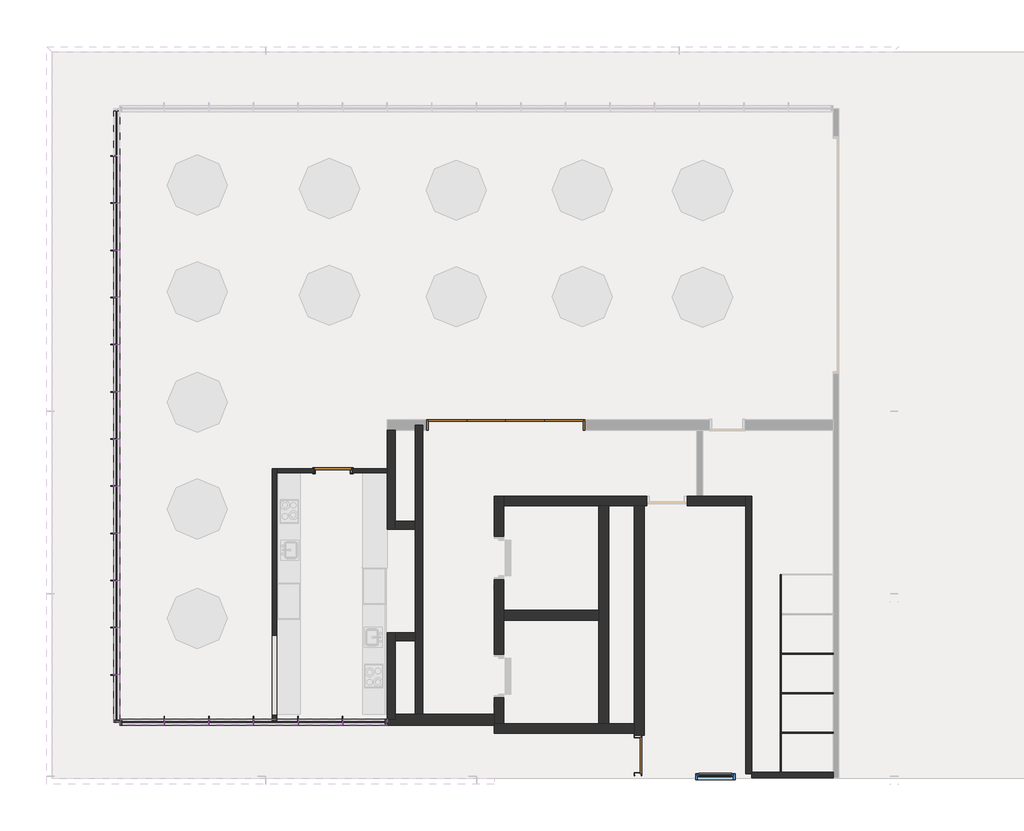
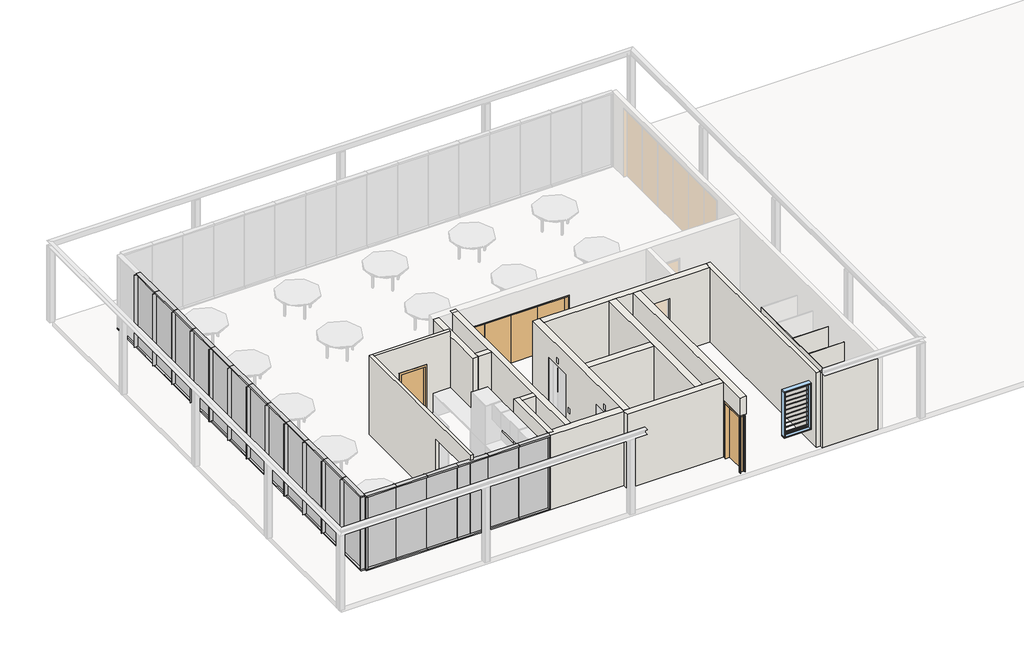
# One storey, part 1 of 4: 57 members, 20 walls, 18 plates, 3 doors, 1 window.
"""IFC4 building model written with IfcOpenShell, lengths in millimetres."""

from ifc_helpers import new_model, si_unit, frame, origin, place, context, project, spatial, polyline, outline, extrude, faceted_brep, transform, mapped, element, save
from components import bi_fold_dor_4_panel_4000_20490200, swing_metal_frame_single_dor_f6efc24d, swing_metal_frame_single_dor_b69e6ea5, rectangular_mullion_50_x_150mm_32aaa733, rectangular_mullion_50_x_150mm_9be94989, rectangular_mullion_50_x_150mm_d2985cef, rectangular_mullion_glass_fin_37cd247f, system_panel_glazed_12mm_face_11843d3f, system_panel_glazed_12mm_face_f78356ff, system_panel_glazed_12mm_face_7741d691, system_panel_glazed_12mm_face_335c03bf, window_louvre_window_louvre_92f3ddc7

model = new_model("IFC4")

# Units and contexts
model_context = context("Model", 3, world=origin())
ifc_project = project(units=[si_unit("LENGTHUNIT", "METRE", prefix="MILLI")], contexts=[model_context])

# Site, building, storey
site = spatial("IfcSite", under=ifc_project)
building = spatial("IfcBuilding", under=site)
storey = spatial("IfcBuildingStorey", under=building, Name="4階", Elevation=39200.0)

# Doors
placement = place(None, origin())
bi_fold_dor_4_panel_4000_shape = bi_fold_dor_4_panel_4000_20490200(model_context)
element("IfcDoor", 1, ObjectType="Bi Fold_DOR : 4 Panel - 4000", at=placement, inside=storey, context=model_context, shape_type="MappedRepresentation", body=[
    mapped(bi_fold_dor_4_panel_4000_shape, transform((13994.6062665, 9131.2680774, 39200.0), x_axis=(1.0, 0.0, 0.0), y_axis=(0.0, 1.0, 0.0), z_axis=(0.0, 0.0, 1.0))),
])
swing_metal_frame_single_dor_shape = swing_metal_frame_single_dor_f6efc24d(model_context)
element("IfcDoor", 2, ObjectType="Swing_Metal Frame_Single_DOR : 2140h x 920 (2210x1010 BLK)", at=placement, inside=storey, context=model_context, shape_type="MappedRepresentation", body=[
    mapped(swing_metal_frame_single_dor_shape, transform((17369.6062665, 770.0, 39200.0), x_axis=(0.0, 1.0, 0.0), y_axis=(-1.0, 0.0, 0.0), z_axis=(0.0, 0.0, 1.0))),
])
swing_metal_frame_single_dor_2_shape = swing_metal_frame_single_dor_b69e6ea5(model_context)
element("IfcDoor", 3, ObjectType="Swing_Metal Frame_Single_DOR : 2040h x 920 (2110x1020 STUD)", at=placement, inside=storey, context=model_context, shape_type="MappedRepresentation", body=[
    mapped(swing_metal_frame_single_dor_2_shape, transform((9616.1549948, 7974.0898177, 39200.0), x_axis=(-1.0, 0.0, 0.0), y_axis=(0.0, -1.0, 0.0), z_axis=(0.0, 0.0, 1.0))),
])

# Members
rectangular_mullion_50_x_150mm_shape = rectangular_mullion_50_x_150mm_32aaa733(model_context)
element("IfcMember", 4, ObjectType="Rectangular Mullion : 50 x 150mm", at=placement, inside=storey, context=model_context, shape_type="MappedRepresentation", body=[
    mapped(rectangular_mullion_50_x_150mm_shape, transform((10994.6062665, 1614.0898177, 39250.0), x_axis=(1.0, 0.0, 0.0), y_axis=(0.0, -1.0, 0.0), z_axis=(0.0, 0.0, -1.0))),
])
element("IfcMember", 5, ObjectType="Rectangular Mullion : 50 x 150mm", at=placement, inside=storey, context=model_context, shape_type="MappedRepresentation", body=[
    mapped(rectangular_mullion_50_x_150mm_shape, transform((4219.6057353, 1614.0898177, 42050.0), x_axis=(-1.0, 0.0, 0.0), y_axis=(0.0, -1.0, 0.0), z_axis=(0.0, 0.0, 1.0))),
])
element("IfcMember", 6, ObjectType="Rectangular Mullion : 50 x 150mm", at=placement, inside=storey, context=model_context, shape_type="MappedRepresentation", body=[
    mapped(rectangular_mullion_50_x_150mm_shape, transform((4144.6057353, 1614.0898177, 42050.0), x_axis=(0.0, -1.0, 0.0), y_axis=(1.0, 0.0, 0.0), z_axis=(0.0, 0.0, 1.0))),
])
rectangular_mullion_50_x_150mm_2_shape = rectangular_mullion_50_x_150mm_9be94989(model_context)
element("IfcMember", 7, ObjectType="Rectangular Mullion : 50 x 150mm", at=placement, inside=storey, context=model_context, shape_type="MappedRepresentation", body=[
    mapped(rectangular_mullion_50_x_150mm_2_shape, transform((4144.6057353, 1614.0898177, 39200.0), x_axis=(0.0, 0.0, -1.0), y_axis=(1.0, 0.0, 0.0), z_axis=(0.0, -1.0, 0.0))),
])
element("IfcMember", 8, ObjectType="Rectangular Mullion : 50 x 150mm", at=placement, inside=storey, context=model_context, shape_type="MappedRepresentation", body=[
    mapped(rectangular_mullion_50_x_150mm_2_shape, transform((4144.6057353, 2808.0059855, 42100.0), x_axis=(0.0, 0.0, 1.0), y_axis=(1.0, 0.0, 0.0), z_axis=(0.0, 1.0, 0.0))),
])
element("IfcMember", 9, ObjectType="Rectangular Mullion : 50 x 150mm", at=placement, inside=storey, context=model_context, shape_type="MappedRepresentation", body=[
    mapped(rectangular_mullion_50_x_150mm_2_shape, transform((4144.6057353, 4001.9221534, 42100.0), x_axis=(0.0, 0.0, 1.0), y_axis=(1.0, 0.0, 0.0), z_axis=(0.0, 1.0, 0.0))),
])
element("IfcMember", 10, ObjectType="Rectangular Mullion : 50 x 150mm", at=placement, inside=storey, context=model_context, shape_type="MappedRepresentation", body=[
    mapped(rectangular_mullion_50_x_150mm_2_shape, transform((4144.6057353, 5195.8383213, 42100.0), x_axis=(0.0, 0.0, 1.0), y_axis=(1.0, 0.0, 0.0), z_axis=(0.0, 1.0, 0.0))),
])
element("IfcMember", 11, ObjectType="Rectangular Mullion : 50 x 150mm", at=placement, inside=storey, context=model_context, shape_type="MappedRepresentation", body=[
    mapped(rectangular_mullion_50_x_150mm_2_shape, transform((4144.6057353, 6389.7544891, 42100.0), x_axis=(0.0, 0.0, 1.0), y_axis=(1.0, 0.0, 0.0), z_axis=(0.0, 1.0, 0.0))),
])
element("IfcMember", 12, ObjectType="Rectangular Mullion : 50 x 150mm", at=placement, inside=storey, context=model_context, shape_type="MappedRepresentation", body=[
    mapped(rectangular_mullion_50_x_150mm_2_shape, transform((4144.6057353, 7583.670657, 42100.0), x_axis=(0.0, 0.0, 1.0), y_axis=(1.0, 0.0, 0.0), z_axis=(0.0, 1.0, 0.0))),
])
element("IfcMember", 13, ObjectType="Rectangular Mullion : 50 x 150mm", at=placement, inside=storey, context=model_context, shape_type="MappedRepresentation", body=[
    mapped(rectangular_mullion_50_x_150mm_2_shape, transform((4144.6057353, 8777.5868249, 42100.0), x_axis=(0.0, 0.0, 1.0), y_axis=(1.0, 0.0, 0.0), z_axis=(0.0, 1.0, 0.0))),
])
element("IfcMember", 14, ObjectType="Rectangular Mullion : 50 x 150mm", at=placement, inside=storey, context=model_context, shape_type="MappedRepresentation", body=[
    mapped(rectangular_mullion_50_x_150mm_2_shape, transform((4144.6057353, 9971.5029928, 42100.0), x_axis=(0.0, 0.0, 1.0), y_axis=(1.0, 0.0, 0.0), z_axis=(0.0, 1.0, 0.0))),
])
element("IfcMember", 15, ObjectType="Rectangular Mullion : 50 x 150mm", at=placement, inside=storey, context=model_context, shape_type="MappedRepresentation", body=[
    mapped(rectangular_mullion_50_x_150mm_2_shape, transform((4144.6057353, 11165.4191606, 42100.0), x_axis=(0.0, 0.0, 1.0), y_axis=(1.0, 0.0, 0.0), z_axis=(0.0, 1.0, 0.0))),
])
element("IfcMember", 16, ObjectType="Rectangular Mullion : 50 x 150mm", at=placement, inside=storey, context=model_context, shape_type="MappedRepresentation", body=[
    mapped(rectangular_mullion_50_x_150mm_2_shape, transform((4144.6057353, 12359.3353285, 42100.0), x_axis=(0.0, 0.0, 1.0), y_axis=(1.0, 0.0, 0.0), z_axis=(0.0, 1.0, 0.0))),
])
element("IfcMember", 17, ObjectType="Rectangular Mullion : 50 x 150mm", at=placement, inside=storey, context=model_context, shape_type="MappedRepresentation", body=[
    mapped(rectangular_mullion_50_x_150mm_2_shape, transform((4144.6057353, 13553.2514964, 42100.0), x_axis=(0.0, 0.0, 1.0), y_axis=(1.0, 0.0, 0.0), z_axis=(0.0, 1.0, 0.0))),
])
element("IfcMember", 18, ObjectType="Rectangular Mullion : 50 x 150mm", at=placement, inside=storey, context=model_context, shape_type="MappedRepresentation", body=[
    mapped(rectangular_mullion_50_x_150mm_2_shape, transform((4144.6057353, 14747.1676643, 42100.0), x_axis=(0.0, 0.0, 1.0), y_axis=(1.0, 0.0, 0.0), z_axis=(0.0, 1.0, 0.0))),
])
element("IfcMember", 19, ObjectType="Rectangular Mullion : 50 x 150mm", at=placement, inside=storey, context=model_context, shape_type="MappedRepresentation", body=[
    mapped(rectangular_mullion_50_x_150mm_2_shape, transform((4144.6057353, 15941.0838321, 42100.0), x_axis=(0.0, 0.0, 1.0), y_axis=(1.0, 0.0, 0.0), z_axis=(0.0, 1.0, 0.0))),
])
element("IfcMember", 20, ObjectType="Rectangular Mullion : 50 x 150mm", at=placement, inside=storey, context=model_context, shape_type="MappedRepresentation", body=[
    mapped(rectangular_mullion_50_x_150mm_2_shape, transform((4144.6057353, 2808.0059855, 39200.0), x_axis=(0.0, 0.0, -1.0), y_axis=(1.0, 0.0, 0.0), z_axis=(0.0, -1.0, 0.0))),
])
element("IfcMember", 21, ObjectType="Rectangular Mullion : 50 x 150mm", at=placement, inside=storey, context=model_context, shape_type="MappedRepresentation", body=[
    mapped(rectangular_mullion_50_x_150mm_2_shape, transform((4144.6057353, 4001.9221534, 39200.0), x_axis=(0.0, 0.0, -1.0), y_axis=(1.0, 0.0, 0.0), z_axis=(0.0, -1.0, 0.0))),
])
element("IfcMember", 22, ObjectType="Rectangular Mullion : 50 x 150mm", at=placement, inside=storey, context=model_context, shape_type="MappedRepresentation", body=[
    mapped(rectangular_mullion_50_x_150mm_2_shape, transform((4144.6057353, 5195.8383213, 39200.0), x_axis=(0.0, 0.0, -1.0), y_axis=(1.0, 0.0, 0.0), z_axis=(0.0, -1.0, 0.0))),
])
element("IfcMember", 23, ObjectType="Rectangular Mullion : 50 x 150mm", at=placement, inside=storey, context=model_context, shape_type="MappedRepresentation", body=[
    mapped(rectangular_mullion_50_x_150mm_2_shape, transform((4144.6057353, 6389.7544891, 39200.0), x_axis=(0.0, 0.0, -1.0), y_axis=(1.0, 0.0, 0.0), z_axis=(0.0, -1.0, 0.0))),
])
element("IfcMember", 24, ObjectType="Rectangular Mullion : 50 x 150mm", at=placement, inside=storey, context=model_context, shape_type="MappedRepresentation", body=[
    mapped(rectangular_mullion_50_x_150mm_2_shape, transform((4144.6057353, 7583.670657, 39200.0), x_axis=(0.0, 0.0, -1.0), y_axis=(1.0, 0.0, 0.0), z_axis=(0.0, -1.0, 0.0))),
])
element("IfcMember", 25, ObjectType="Rectangular Mullion : 50 x 150mm", at=placement, inside=storey, context=model_context, shape_type="MappedRepresentation", body=[
    mapped(rectangular_mullion_50_x_150mm_2_shape, transform((4144.6057353, 8777.5868249, 39200.0), x_axis=(0.0, 0.0, -1.0), y_axis=(1.0, 0.0, 0.0), z_axis=(0.0, -1.0, 0.0))),
])
element("IfcMember", 26, ObjectType="Rectangular Mullion : 50 x 150mm", at=placement, inside=storey, context=model_context, shape_type="MappedRepresentation", body=[
    mapped(rectangular_mullion_50_x_150mm_2_shape, transform((4144.6057353, 9971.5029928, 39200.0), x_axis=(0.0, 0.0, -1.0), y_axis=(1.0, 0.0, 0.0), z_axis=(0.0, -1.0, 0.0))),
])
element("IfcMember", 27, ObjectType="Rectangular Mullion : 50 x 150mm", at=placement, inside=storey, context=model_context, shape_type="MappedRepresentation", body=[
    mapped(rectangular_mullion_50_x_150mm_2_shape, transform((4144.6057353, 11165.4191606, 39200.0), x_axis=(0.0, 0.0, -1.0), y_axis=(1.0, 0.0, 0.0), z_axis=(0.0, -1.0, 0.0))),
])
element("IfcMember", 28, ObjectType="Rectangular Mullion : 50 x 150mm", at=placement, inside=storey, context=model_context, shape_type="MappedRepresentation", body=[
    mapped(rectangular_mullion_50_x_150mm_2_shape, transform((4144.6057353, 12359.3353285, 39200.0), x_axis=(0.0, 0.0, -1.0), y_axis=(1.0, 0.0, 0.0), z_axis=(0.0, -1.0, 0.0))),
])
element("IfcMember", 29, ObjectType="Rectangular Mullion : 50 x 150mm", at=placement, inside=storey, context=model_context, shape_type="MappedRepresentation", body=[
    mapped(rectangular_mullion_50_x_150mm_2_shape, transform((4144.6057353, 13553.2514964, 39200.0), x_axis=(0.0, 0.0, -1.0), y_axis=(1.0, 0.0, 0.0), z_axis=(0.0, -1.0, 0.0))),
])
element("IfcMember", 30, ObjectType="Rectangular Mullion : 50 x 150mm", at=placement, inside=storey, context=model_context, shape_type="MappedRepresentation", body=[
    mapped(rectangular_mullion_50_x_150mm_2_shape, transform((4144.6057353, 14747.1676643, 39200.0), x_axis=(0.0, 0.0, -1.0), y_axis=(1.0, 0.0, 0.0), z_axis=(0.0, -1.0, 0.0))),
])
element("IfcMember", 31, ObjectType="Rectangular Mullion : 50 x 150mm", at=placement, inside=storey, context=model_context, shape_type="MappedRepresentation", body=[
    mapped(rectangular_mullion_50_x_150mm_2_shape, transform((4144.6057353, 15941.0838321, 39200.0), x_axis=(0.0, 0.0, -1.0), y_axis=(1.0, 0.0, 0.0), z_axis=(0.0, -1.0, 0.0))),
])
rectangular_mullion_50_x_150mm_3_shape = rectangular_mullion_50_x_150mm_d2985cef(model_context)
element("IfcMember", 32, ObjectType="Rectangular Mullion : 50 x 150mm", at=placement, inside=storey, context=model_context, shape_type="MappedRepresentation", body=[
    mapped(rectangular_mullion_50_x_150mm_3_shape, transform((10994.6062665, 1614.0898177, 42100.0), x_axis=(0.0, 0.0, 1.0), y_axis=(0.0, -1.0, 0.0), z_axis=(1.0, 0.0, 0.0))),
])
element("IfcMember", 33, ObjectType="Rectangular Mullion : 50 x 150mm", at=placement, inside=storey, context=model_context, shape_type="MappedRepresentation", body=[
    mapped(rectangular_mullion_50_x_150mm_3_shape, transform((4219.6057353, 1614.0898177, 39200.0), x_axis=(0.0, 0.0, -1.0), y_axis=(0.0, -1.0, 0.0), z_axis=(-1.0, 0.0, 0.0))),
])
element("IfcMember", 34, ObjectType="Rectangular Mullion : 50 x 150mm", at=placement, inside=storey, context=model_context, shape_type="MappedRepresentation", body=[
    mapped(rectangular_mullion_50_x_150mm_3_shape, transform((5348.7724905, 1614.0898177, 42100.0), x_axis=(0.0, 0.0, 1.0), y_axis=(0.0, -1.0, 0.0), z_axis=(1.0, 0.0, 0.0))),
])
element("IfcMember", 35, ObjectType="Rectangular Mullion : 50 x 150mm", at=placement, inside=storey, context=model_context, shape_type="MappedRepresentation", body=[
    mapped(rectangular_mullion_50_x_150mm_3_shape, transform((6477.9392457, 1614.0898177, 42100.0), x_axis=(0.0, 0.0, 1.0), y_axis=(0.0, -1.0, 0.0), z_axis=(1.0, 0.0, 0.0))),
])
element("IfcMember", 36, ObjectType="Rectangular Mullion : 50 x 150mm", at=placement, inside=storey, context=model_context, shape_type="MappedRepresentation", body=[
    mapped(rectangular_mullion_50_x_150mm_3_shape, transform((7607.1060009, 1614.0898177, 42100.0), x_axis=(0.0, 0.0, 1.0), y_axis=(0.0, -1.0, 0.0), z_axis=(1.0, 0.0, 0.0))),
])
element("IfcMember", 37, ObjectType="Rectangular Mullion : 50 x 150mm", at=placement, inside=storey, context=model_context, shape_type="MappedRepresentation", body=[
    mapped(rectangular_mullion_50_x_150mm_3_shape, transform((8736.2727561, 1614.0898177, 42100.0), x_axis=(0.0, 0.0, 1.0), y_axis=(0.0, -1.0, 0.0), z_axis=(1.0, 0.0, 0.0))),
])
element("IfcMember", 38, ObjectType="Rectangular Mullion : 50 x 150mm", at=placement, inside=storey, context=model_context, shape_type="MappedRepresentation", body=[
    mapped(rectangular_mullion_50_x_150mm_3_shape, transform((9865.4395113, 1614.0898177, 42100.0), x_axis=(0.0, 0.0, 1.0), y_axis=(0.0, -1.0, 0.0), z_axis=(1.0, 0.0, 0.0))),
])
element("IfcMember", 39, ObjectType="Rectangular Mullion : 50 x 150mm", at=placement, inside=storey, context=model_context, shape_type="MappedRepresentation", body=[
    mapped(rectangular_mullion_50_x_150mm_3_shape, transform((5348.7724905, 1614.0898177, 39200.0), x_axis=(0.0, 0.0, -1.0), y_axis=(0.0, -1.0, 0.0), z_axis=(-1.0, 0.0, 0.0))),
])
element("IfcMember", 40, ObjectType="Rectangular Mullion : 50 x 150mm", at=placement, inside=storey, context=model_context, shape_type="MappedRepresentation", body=[
    mapped(rectangular_mullion_50_x_150mm_3_shape, transform((6477.9392457, 1614.0898177, 39200.0), x_axis=(0.0, 0.0, -1.0), y_axis=(0.0, -1.0, 0.0), z_axis=(-1.0, 0.0, 0.0))),
])
element("IfcMember", 41, ObjectType="Rectangular Mullion : 50 x 150mm", at=placement, inside=storey, context=model_context, shape_type="MappedRepresentation", body=[
    mapped(rectangular_mullion_50_x_150mm_3_shape, transform((7607.1060009, 1614.0898177, 39200.0), x_axis=(0.0, 0.0, -1.0), y_axis=(0.0, -1.0, 0.0), z_axis=(-1.0, 0.0, 0.0))),
])
element("IfcMember", 42, ObjectType="Rectangular Mullion : 50 x 150mm", at=placement, inside=storey, context=model_context, shape_type="MappedRepresentation", body=[
    mapped(rectangular_mullion_50_x_150mm_3_shape, transform((8736.2727561, 1614.0898177, 39200.0), x_axis=(0.0, 0.0, -1.0), y_axis=(0.0, -1.0, 0.0), z_axis=(-1.0, 0.0, 0.0))),
])
element("IfcMember", 43, ObjectType="Rectangular Mullion : 50 x 150mm", at=placement, inside=storey, context=model_context, shape_type="MappedRepresentation", body=[
    mapped(rectangular_mullion_50_x_150mm_3_shape, transform((9865.4395113, 1614.0898177, 39200.0), x_axis=(0.0, 0.0, -1.0), y_axis=(0.0, -1.0, 0.0), z_axis=(-1.0, 0.0, 0.0))),
])
rectangular_mullion_glass_fin_shape = rectangular_mullion_glass_fin_37cd247f(model_context)
element("IfcMember", 44, ObjectType="Rectangular Mullion : Glass Fin", at=placement, inside=storey, context=model_context, shape_type="MappedRepresentation", body=[
    mapped(rectangular_mullion_glass_fin_shape, transform((5348.7724905, 1614.0898177, 39250.0), x_axis=(1.0, 0.0, 0.0), y_axis=(0.0, -1.0, 0.0), z_axis=(0.0, 0.0, -1.0))),
])
element("IfcMember", 45, ObjectType="Rectangular Mullion : Glass Fin", at=placement, inside=storey, context=model_context, shape_type="MappedRepresentation", body=[
    mapped(rectangular_mullion_glass_fin_shape, transform((6477.9392457, 1614.0898177, 39250.0), x_axis=(1.0, 0.0, 0.0), y_axis=(0.0, -1.0, 0.0), z_axis=(0.0, 0.0, -1.0))),
])
element("IfcMember", 46, ObjectType="Rectangular Mullion : Glass Fin", at=placement, inside=storey, context=model_context, shape_type="MappedRepresentation", body=[
    mapped(rectangular_mullion_glass_fin_shape, transform((7607.1060009, 1614.0898177, 39250.0), x_axis=(1.0, 0.0, 0.0), y_axis=(0.0, -1.0, 0.0), z_axis=(0.0, 0.0, -1.0))),
])
element("IfcMember", 47, ObjectType="Rectangular Mullion : Glass Fin", at=placement, inside=storey, context=model_context, shape_type="MappedRepresentation", body=[
    mapped(rectangular_mullion_glass_fin_shape, transform((8736.2727561, 1614.0898177, 39250.0), x_axis=(1.0, 0.0, 0.0), y_axis=(0.0, -1.0, 0.0), z_axis=(0.0, 0.0, -1.0))),
])
element("IfcMember", 48, ObjectType="Rectangular Mullion : Glass Fin", at=placement, inside=storey, context=model_context, shape_type="MappedRepresentation", body=[
    mapped(rectangular_mullion_glass_fin_shape, transform((9865.4395113, 1614.0898177, 39250.0), x_axis=(1.0, 0.0, 0.0), y_axis=(0.0, -1.0, 0.0), z_axis=(0.0, 0.0, -1.0))),
])
element("IfcMember", 49, ObjectType="Rectangular Mullion : Glass Fin", at=placement, inside=storey, context=model_context, shape_type="MappedRepresentation", body=[
    mapped(rectangular_mullion_glass_fin_shape, transform((4144.6057353, 2808.0059855, 39250.0), x_axis=(0.0, 1.0, 0.0), y_axis=(1.0, 0.0, 0.0), z_axis=(0.0, 0.0, -1.0))),
])
element("IfcMember", 50, ObjectType="Rectangular Mullion : Glass Fin", at=placement, inside=storey, context=model_context, shape_type="MappedRepresentation", body=[
    mapped(rectangular_mullion_glass_fin_shape, transform((4144.6057353, 4001.9221534, 39250.0), x_axis=(0.0, 1.0, 0.0), y_axis=(1.0, 0.0, 0.0), z_axis=(0.0, 0.0, -1.0))),
])
element("IfcMember", 51, ObjectType="Rectangular Mullion : Glass Fin", at=placement, inside=storey, context=model_context, shape_type="MappedRepresentation", body=[
    mapped(rectangular_mullion_glass_fin_shape, transform((4144.6057353, 5195.8383213, 39250.0), x_axis=(0.0, 1.0, 0.0), y_axis=(1.0, 0.0, 0.0), z_axis=(0.0, 0.0, -1.0))),
])
element("IfcMember", 52, ObjectType="Rectangular Mullion : Glass Fin", at=placement, inside=storey, context=model_context, shape_type="MappedRepresentation", body=[
    mapped(rectangular_mullion_glass_fin_shape, transform((4144.6057353, 6389.7544891, 39250.0), x_axis=(0.0, 1.0, 0.0), y_axis=(1.0, 0.0, 0.0), z_axis=(0.0, 0.0, -1.0))),
])
element("IfcMember", 53, ObjectType="Rectangular Mullion : Glass Fin", at=placement, inside=storey, context=model_context, shape_type="MappedRepresentation", body=[
    mapped(rectangular_mullion_glass_fin_shape, transform((4144.6057353, 7583.670657, 39250.0), x_axis=(0.0, 1.0, 0.0), y_axis=(1.0, 0.0, 0.0), z_axis=(0.0, 0.0, -1.0))),
])
element("IfcMember", 54, ObjectType="Rectangular Mullion : Glass Fin", at=placement, inside=storey, context=model_context, shape_type="MappedRepresentation", body=[
    mapped(rectangular_mullion_glass_fin_shape, transform((4144.6057353, 8777.5868249, 39250.0), x_axis=(0.0, 1.0, 0.0), y_axis=(1.0, 0.0, 0.0), z_axis=(0.0, 0.0, -1.0))),
])
element("IfcMember", 55, ObjectType="Rectangular Mullion : Glass Fin", at=placement, inside=storey, context=model_context, shape_type="MappedRepresentation", body=[
    mapped(rectangular_mullion_glass_fin_shape, transform((4144.6057353, 9971.5029928, 39250.0), x_axis=(0.0, 1.0, 0.0), y_axis=(1.0, 0.0, 0.0), z_axis=(0.0, 0.0, -1.0))),
])
element("IfcMember", 56, ObjectType="Rectangular Mullion : Glass Fin", at=placement, inside=storey, context=model_context, shape_type="MappedRepresentation", body=[
    mapped(rectangular_mullion_glass_fin_shape, transform((4144.6057353, 11165.4191606, 39250.0), x_axis=(0.0, 1.0, 0.0), y_axis=(1.0, 0.0, 0.0), z_axis=(0.0, 0.0, -1.0))),
])
element("IfcMember", 57, ObjectType="Rectangular Mullion : Glass Fin", at=placement, inside=storey, context=model_context, shape_type="MappedRepresentation", body=[
    mapped(rectangular_mullion_glass_fin_shape, transform((4144.6057353, 12359.3353285, 39250.0), x_axis=(0.0, 1.0, 0.0), y_axis=(1.0, 0.0, 0.0), z_axis=(0.0, 0.0, -1.0))),
])
element("IfcMember", 58, ObjectType="Rectangular Mullion : Glass Fin", at=placement, inside=storey, context=model_context, shape_type="MappedRepresentation", body=[
    mapped(rectangular_mullion_glass_fin_shape, transform((4144.6057353, 13553.2514964, 39250.0), x_axis=(0.0, 1.0, 0.0), y_axis=(1.0, 0.0, 0.0), z_axis=(0.0, 0.0, -1.0))),
])
element("IfcMember", 59, ObjectType="Rectangular Mullion : Glass Fin", at=placement, inside=storey, context=model_context, shape_type="MappedRepresentation", body=[
    mapped(rectangular_mullion_glass_fin_shape, transform((4144.6057353, 14747.1676643, 39250.0), x_axis=(0.0, 1.0, 0.0), y_axis=(1.0, 0.0, 0.0), z_axis=(0.0, 0.0, -1.0))),
])
element("IfcMember", 60, ObjectType="Rectangular Mullion : Glass Fin", at=placement, inside=storey, context=model_context, shape_type="MappedRepresentation", body=[
    mapped(rectangular_mullion_glass_fin_shape, transform((4144.6057353, 15941.0838321, 39250.0), x_axis=(0.0, 1.0, 0.0), y_axis=(1.0, 0.0, 0.0), z_axis=(0.0, 0.0, -1.0))),
])

# Plates
system_panel_glazed_12mm_face_shape = system_panel_glazed_12mm_face_11843d3f(model_context)
element("IfcPlate", 61, ObjectType="System Panel : Glazed 12mm_Face", at=placement, inside=storey, context=model_context, shape_type="MappedRepresentation", body=[
    mapped(system_panel_glazed_12mm_face_shape, transform((4144.6057353, 2236.0479016, 39250.0), x_axis=(0.0, 1.0, 0.0), y_axis=(-1.0, 0.0, 0.0), z_axis=(0.0, 0.0, 1.0))),
])
system_panel_glazed_12mm_face_2_shape = system_panel_glazed_12mm_face_f78356ff(model_context)
element("IfcPlate", 62, ObjectType="System Panel : Glazed 12mm_Face", at=placement, inside=storey, context=model_context, shape_type="MappedRepresentation", body=[
    mapped(system_panel_glazed_12mm_face_2_shape, transform((4144.6057353, 3404.9640695, 39250.0), x_axis=(0.0, 1.0, 0.0), y_axis=(-1.0, 0.0, 0.0), z_axis=(0.0, 0.0, 1.0))),
])
element("IfcPlate", 63, ObjectType="System Panel : Glazed 12mm_Face", at=placement, inside=storey, context=model_context, shape_type="MappedRepresentation", body=[
    mapped(system_panel_glazed_12mm_face_2_shape, transform((4144.6057353, 4598.8802373, 39250.0), x_axis=(0.0, 1.0, 0.0), y_axis=(-1.0, 0.0, 0.0), z_axis=(0.0, 0.0, 1.0))),
])
element("IfcPlate", 64, ObjectType="System Panel : Glazed 12mm_Face", at=placement, inside=storey, context=model_context, shape_type="MappedRepresentation", body=[
    mapped(system_panel_glazed_12mm_face_2_shape, transform((4144.6057353, 5792.7964052, 39250.0), x_axis=(0.0, 1.0, 0.0), y_axis=(-1.0, 0.0, 0.0), z_axis=(0.0, 0.0, 1.0))),
])
element("IfcPlate", 65, ObjectType="System Panel : Glazed 12mm_Face", at=placement, inside=storey, context=model_context, shape_type="MappedRepresentation", body=[
    mapped(system_panel_glazed_12mm_face_2_shape, transform((4144.6057353, 6986.7125731, 39250.0), x_axis=(0.0, 1.0, 0.0), y_axis=(-1.0, 0.0, 0.0), z_axis=(0.0, 0.0, 1.0))),
])
element("IfcPlate", 66, ObjectType="System Panel : Glazed 12mm_Face", at=placement, inside=storey, context=model_context, shape_type="MappedRepresentation", body=[
    mapped(system_panel_glazed_12mm_face_2_shape, transform((4144.6057353, 8180.628741, 39250.0), x_axis=(0.0, 1.0, 0.0), y_axis=(-1.0, 0.0, 0.0), z_axis=(0.0, 0.0, 1.0))),
])
element("IfcPlate", 67, ObjectType="System Panel : Glazed 12mm_Face", at=placement, inside=storey, context=model_context, shape_type="MappedRepresentation", body=[
    mapped(system_panel_glazed_12mm_face_2_shape, transform((4144.6057353, 9374.5449088, 39250.0), x_axis=(0.0, 1.0, 0.0), y_axis=(-1.0, 0.0, 0.0), z_axis=(0.0, 0.0, 1.0))),
])
element("IfcPlate", 68, ObjectType="System Panel : Glazed 12mm_Face", at=placement, inside=storey, context=model_context, shape_type="MappedRepresentation", body=[
    mapped(system_panel_glazed_12mm_face_2_shape, transform((4144.6057353, 10568.4610767, 39250.0), x_axis=(0.0, 1.0, 0.0), y_axis=(-1.0, 0.0, 0.0), z_axis=(0.0, 0.0, 1.0))),
])
element("IfcPlate", 69, ObjectType="System Panel : Glazed 12mm_Face", at=placement, inside=storey, context=model_context, shape_type="MappedRepresentation", body=[
    mapped(system_panel_glazed_12mm_face_2_shape, transform((4144.6057353, 11762.3772446, 39250.0), x_axis=(0.0, 1.0, 0.0), y_axis=(-1.0, 0.0, 0.0), z_axis=(0.0, 0.0, 1.0))),
])
element("IfcPlate", 70, ObjectType="System Panel : Glazed 12mm_Face", at=placement, inside=storey, context=model_context, shape_type="MappedRepresentation", body=[
    mapped(system_panel_glazed_12mm_face_2_shape, transform((4144.6057353, 12956.2934124, 39250.0), x_axis=(0.0, 1.0, 0.0), y_axis=(-1.0, 0.0, 0.0), z_axis=(0.0, 0.0, 1.0))),
])
element("IfcPlate", 71, ObjectType="System Panel : Glazed 12mm_Face", at=placement, inside=storey, context=model_context, shape_type="MappedRepresentation", body=[
    mapped(system_panel_glazed_12mm_face_2_shape, transform((4144.6057353, 14150.2095803, 39250.0), x_axis=(0.0, 1.0, 0.0), y_axis=(-1.0, 0.0, 0.0), z_axis=(0.0, 0.0, 1.0))),
])
element("IfcPlate", 72, ObjectType="System Panel : Glazed 12mm_Face", at=placement, inside=storey, context=model_context, shape_type="MappedRepresentation", body=[
    mapped(system_panel_glazed_12mm_face_2_shape, transform((4144.6057353, 15344.1257482, 39250.0), x_axis=(0.0, 1.0, 0.0), y_axis=(-1.0, 0.0, 0.0), z_axis=(0.0, 0.0, 1.0))),
])
system_panel_glazed_12mm_face_3_shape = system_panel_glazed_12mm_face_7741d691(model_context)
element("IfcPlate", 73, ObjectType="System Panel : Glazed 12mm_Face", at=placement, inside=storey, context=model_context, shape_type="MappedRepresentation", body=[
    mapped(system_panel_glazed_12mm_face_3_shape, transform((4809.1891129, 1614.0898177, 39250.0), x_axis=(1.0, 0.0, 0.0), y_axis=(0.0, 1.0, 0.0), z_axis=(0.0, 0.0, 1.0))),
])
element("IfcPlate", 74, ObjectType="System Panel : Glazed 12mm_Face", at=placement, inside=storey, context=model_context, shape_type="MappedRepresentation", body=[
    mapped(system_panel_glazed_12mm_face_3_shape, transform((10405.0228889, 1614.0898177, 39250.0), x_axis=(1.0, 0.0, 0.0), y_axis=(0.0, 1.0, 0.0), z_axis=(0.0, 0.0, 1.0))),
])
system_panel_glazed_12mm_face_4_shape = system_panel_glazed_12mm_face_335c03bf(model_context)
element("IfcPlate", 75, ObjectType="System Panel : Glazed 12mm_Face", at=placement, inside=storey, context=model_context, shape_type="MappedRepresentation", body=[
    mapped(system_panel_glazed_12mm_face_4_shape, transform((5913.3558681, 1614.0898177, 39250.0), x_axis=(1.0, 0.0, 0.0), y_axis=(0.0, 1.0, 0.0), z_axis=(0.0, 0.0, 1.0))),
])
element("IfcPlate", 76, ObjectType="System Panel : Glazed 12mm_Face", at=placement, inside=storey, context=model_context, shape_type="MappedRepresentation", body=[
    mapped(system_panel_glazed_12mm_face_4_shape, transform((7042.5226233, 1614.0898177, 39250.0), x_axis=(1.0, 0.0, 0.0), y_axis=(0.0, 1.0, 0.0), z_axis=(0.0, 0.0, 1.0))),
])
element("IfcPlate", 77, ObjectType="System Panel : Glazed 12mm_Face", at=placement, inside=storey, context=model_context, shape_type="MappedRepresentation", body=[
    mapped(system_panel_glazed_12mm_face_4_shape, transform((8171.6893785, 1614.0898177, 39250.0), x_axis=(1.0, 0.0, 0.0), y_axis=(0.0, 1.0, 0.0), z_axis=(0.0, 0.0, 1.0))),
])
element("IfcPlate", 78, ObjectType="System Panel : Glazed 12mm_Face", at=placement, inside=storey, context=model_context, shape_type="MappedRepresentation", body=[
    mapped(system_panel_glazed_12mm_face_4_shape, transform((9300.8561337, 1614.0898177, 39250.0), x_axis=(1.0, 0.0, 0.0), y_axis=(0.0, 1.0, 0.0), z_axis=(0.0, 0.0, 1.0))),
])

# Walls
element("IfcWall", 79, ObjectType="Whte Paint Finish", at=placement, inside=storey, context=model_context, shape_type="Brep", body=[
    faceted_brep([(20219.6062665, 309.0898177, 39200.0), (20219.6062665, 7335.0, 39200.0), (20219.6062665, 7335.0, 42100.0), (20219.6062665, 309.0898177, 42100.0), (20069.6062665, 309.0898177, 39200.0), (20069.6062665, 309.0898177, 42100.0), (20069.6062665, 7085.0, 42100.0), (20069.6062665, 7335.0, 42100.0), (20069.6062665, 7335.0, 39200.0), (20069.6062665, 7085.0, 39200.0)], [[[0, 1, 2, 3]], [[4, 5, 6, 7, 8, 9]], [[1, 0, 4, 9, 8]], [[3, 2, 7, 6, 5]], [[2, 1, 8, 7]], [[0, 3, 5, 4]]]),
])
element("IfcWall", 80, ObjectType="Whte Paint Finish", at=placement, inside=storey, context=model_context, shape_type="Brep", body=[
    faceted_brep([(20219.6062665, 200.0, 39200.0), (22273.6171203, 200.0, 39200.0), (22273.6171203, 200.0, 42100.0), (20219.6062665, 200.0, 42100.0), (20219.6062665, 350.0, 39200.0), (20219.6062665, 350.0, 42100.0), (22273.6171203, 350.0, 42100.0), (22273.6171203, 350.0, 39200.0), (20957.6171203, 350.0, 39200.0), (20939.6171203, 350.0, 39200.0)], [[[0, 1, 2, 3]], [[4, 5, 6, 7, 8, 9]], [[1, 0, 4, 9, 8, 7]], [[3, 2, 6, 5]], [[0, 3, 5, 4]], [[2, 1, 7, 6]]]),
])
element("IfcWall", 81, ObjectType="Brickwork_Double_270mm", at=placement, inside=storey, context=model_context, shape_type="Brep", body=[
    faceted_brep([(10994.6062665, 1539.0898177, 39200.0), (13694.6062665, 1539.0898177, 39200.0), (13694.6062665, 1539.0898177, 42100.0), (10994.6062665, 1539.0898177, 42100.0), (10994.6062665, 1809.0898177, 39200.0), (10994.6062665, 1809.0898177, 42100.0), (11694.6062665, 1809.0898177, 42100.0), (11894.6062665, 1809.0898177, 42100.0), (13694.6062665, 1809.0898177, 42100.0), (13694.6062665, 1809.0898177, 39200.0), (11894.6062665, 1809.0898177, 39200.0), (11694.6062665, 1809.0898177, 39200.0), (13694.6062665, 1575.0, 39200.0), (13694.6062665, 1575.0, 42100.0)], [[[0, 1, 2, 3]], [[4, 5, 6, 7, 8, 9, 10, 11]], [[1, 0, 4, 11, 10, 9, 12]], [[3, 2, 13, 8, 7, 6, 5]], [[0, 3, 5, 4]], [[2, 1, 12, 9, 8, 13]]]),
])
element("IfcWall", 82, ObjectType="Brickwork_Single_110mm", at=placement, inside=storey, context=model_context, shape_type="Brep", body=[
    faceted_brep([(8192.7037232, 1614.0898177, 39200.0), (8192.7037232, 7919.0898177, 39200.0), (8192.7037232, 8029.0898177, 39200.0), (8192.7037232, 8029.0898177, 42300.0), (8192.7037232, 7919.0898177, 42300.0), (8192.7037232, 1614.0898177, 42300.0), (8192.7037232, 1804.3203531, 41600.0), (8192.7037232, 3804.3203531, 41600.0), (8192.7037232, 3804.3203531, 40400.0), (8192.7037232, 1804.3203531, 40400.0), (8082.7037232, 1614.0898177, 39200.0), (8082.7037232, 1614.0898177, 42300.0), (8082.7037232, 8029.0898177, 42300.0), (8082.7037232, 8029.0898177, 39200.0), (8082.7037232, 1804.3203531, 41600.0), (8082.7037232, 1804.3203531, 40400.0), (8082.7037232, 3804.3203531, 40400.0), (8082.7037232, 3804.3203531, 41600.0)], [[[0, 1, 2, 3, 4, 5], [6, 7, 8, 9]], [[10, 11, 12, 13], [14, 15, 16, 17]], [[2, 1, 0, 10, 13]], [[5, 4, 3, 12, 11]], [[0, 5, 11, 10]], [[3, 2, 13, 12]], [[15, 14, 6, 9]], [[16, 15, 9, 8]], [[17, 16, 8, 7]], [[14, 17, 7, 6]]]),
])
element("IfcWall", 83, ObjectType="Brickwork_Single_110mm", at=placement, inside=storey, context=model_context, shape_type="SweptSolid", body=[
    extrude(outline(polyline([(42300.0, 10994.6062665), (42300.0, 8192.7037232), (39200.0, 8192.7037232), (39200.0, 9126.1549948), (41290.0, 9126.1549948), (41290.0, 10106.1549948), (39200.0, 10106.1549948), (39200.0, 10994.6062665), (42300.0, 10994.6062665)])), frame((0.0, 7919.0898177, 0.0), z_axis=(0.0, 1.0, 0.0), x_axis=(0.0, 0.0, 1.0)), (0.0, 0.0, 1.0), 110.0),
])
element("IfcWall", 84, ObjectType="C1 - Concrete Type 2", at=placement, inside=storey, context=model_context, shape_type="SweptSolid", body=[
    extrude(outline(polyline([(11694.6062665, 6497.0008144), (11194.6062665, 6497.0008144), (11194.6062665, 6697.0008144), (11694.6062665, 6697.0008144), (11694.6062665, 6497.0008144)])), frame((0.0, 0.0, 39200.0), z_axis=(0.0, 0.0, 1.0), x_axis=(1.0, 0.0, 0.0)), (0.0, 0.0, 1.0), 2900.0),
])
element("IfcWall", 85, ObjectType="C1 - Concrete Type 2", at=placement, inside=storey, context=model_context, shape_type="Brep", body=[
    faceted_brep([(11194.6062665, 6497.0008144, 39200.0), (11194.6062665, 6697.0008144, 39200.0), (11194.6062665, 8996.2680774, 39200.0), (11194.6062665, 8996.2680774, 42100.0), (11194.6062665, 6697.0008144, 42100.0), (11194.6062665, 6497.0008144, 42100.0), (10994.6062665, 6497.0008144, 39200.0), (10994.6062665, 6497.0008144, 42100.0), (10994.6062665, 8996.2680774, 42100.0), (10994.6062665, 8996.2680774, 39200.0), (10994.6062665, 8029.0898177, 39200.0), (10994.6062665, 7919.0898177, 39200.0)], [[[0, 1, 2, 3, 4, 5]], [[6, 7, 8, 9, 10, 11]], [[2, 1, 0, 6, 11, 10, 9]], [[5, 4, 3, 8, 7]], [[0, 5, 7, 6]], [[3, 2, 9, 8]]]),
])
element("IfcWall", 86, ObjectType="C1 - Concrete Type 2", at=placement, inside=storey, context=model_context, shape_type="SweptSolid", body=[
    extrude(outline(polyline([(11694.6062665, 3673.0), (11194.6062665, 3673.0), (11194.6062665, 3873.0), (11694.6062665, 3873.0), (11694.6062665, 3673.0)])), frame((0.0, 0.0, 39200.0), z_axis=(0.0, 0.0, 1.0), x_axis=(1.0, 0.0, 0.0)), (0.0, 0.0, 1.0), 2900.0),
])
element("IfcWall", 87, ObjectType="C1 - Concrete Type 2", at=placement, inside=storey, context=model_context, shape_type="Brep", body=[
    faceted_brep([(11194.6062665, 1689.0898177, 39200.0), (11194.6062665, 3673.0, 39200.0), (11194.6062665, 3873.0, 39200.0), (11194.6062665, 3873.0, 42100.0), (11194.6062665, 3673.0, 42100.0), (11194.6062665, 1689.0898177, 42100.0), (10994.6062665, 1689.0898177, 39200.0), (10994.6062665, 1689.0898177, 42100.0), (10994.6062665, 3873.0, 42100.0), (10994.6062665, 3873.0, 39200.0)], [[[0, 1, 2, 3, 4, 5]], [[6, 7, 8, 9]], [[2, 1, 0, 6, 9]], [[3, 2, 9, 8]], [[5, 4, 3, 8, 7]], [[0, 5, 7, 6]]]),
])
element("IfcWall", 88, ObjectType="C1 - Concrete Type 2", at=placement, inside=storey, context=model_context, shape_type="Brep", body=[
    faceted_brep([(11894.6062665, 1809.0898177, 39200.0), (11894.6062665, 9131.2680774, 39200.0), (11894.6062665, 9131.2680774, 42100.0), (11894.6062665, 1809.0898177, 42100.0), (11694.6062665, 1809.0898177, 39200.0), (11694.6062665, 1809.0898177, 42100.0), (11694.6062665, 3673.0, 42100.0), (11694.6062665, 3873.0, 42100.0), (11694.6062665, 6497.0008144, 42100.0), (11694.6062665, 6697.0008144, 42100.0), (11694.6062665, 9131.2680774, 42100.0), (11694.6062665, 9131.2680774, 39200.0), (11694.6062665, 6697.0008144, 39200.0), (11694.6062665, 6497.0008144, 39200.0), (11694.6062665, 3873.0, 39200.0), (11694.6062665, 3673.0, 39200.0)], [[[0, 1, 2, 3]], [[4, 5, 6, 7, 8, 9, 10, 11, 12, 13, 14, 15]], [[1, 0, 4, 15, 14, 13, 12, 11]], [[2, 1, 11, 10]], [[3, 2, 10, 9, 8, 7, 6, 5]], [[0, 3, 5, 4]]]),
])
element("IfcWall", 89, ObjectType="C1 - Concrete Type 3 - 250mm", at=placement, inside=storey, context=model_context, shape_type="Brep", body=[
    faceted_brep([(13694.6062665, 1325.0, 39200.0), (17244.6062665, 1325.0, 39200.0), (17244.6062665, 1325.0, 42100.0), (13694.6062665, 1325.0, 42100.0), (13694.6062665, 1575.0, 39200.0), (13694.6062665, 1575.0, 42100.0), (13944.6062665, 1575.0, 42100.0), (16344.6062665, 1575.0, 42100.0), (16594.6062665, 1575.0, 42100.0), (17244.6062665, 1575.0, 42100.0), (17244.6062665, 1575.0, 39200.0), (16594.6062665, 1575.0, 39200.0), (16344.6062665, 1575.0, 39200.0), (13944.6062665, 1575.0, 39200.0), (13694.6062665, 1539.0898177, 39200.0), (13694.6062665, 1539.0898177, 42100.0)], [[[0, 1, 2, 3]], [[4, 5, 6, 7, 8, 9, 10, 11, 12, 13]], [[1, 0, 14, 4, 13, 12, 11, 10]], [[3, 2, 9, 8, 7, 6, 5, 15]], [[0, 3, 15, 5, 4, 14]], [[2, 1, 10, 9]]]),
])
element("IfcWall", 90, ObjectType="C1 - Concrete Type 3 - 250mm", at=placement, inside=storey, context=model_context, shape_type="SweptSolid", body=[
    extrude(outline(polyline([(16344.6062665, 4195.0), (13944.6062665, 4195.0), (13944.6062665, 4445.0), (16344.6062665, 4445.0), (16344.6062665, 4195.0)])), frame((0.0, 0.0, 39200.0), z_axis=(0.0, 0.0, 1.0), x_axis=(1.0, 0.0, 0.0)), (0.0, 0.0, 1.0), 2900.0),
])
element("IfcWall", 91, ObjectType="C1 - Concrete Type 3 - 250mm", at=placement, inside=storey, context=model_context, shape_type="Brep", body=[
    faceted_brep([(16594.6062665, 1575.0, 39200.0), (16594.6062665, 7085.0, 39200.0), (16594.6062665, 7085.0, 42100.0), (16594.6062665, 1575.0, 42100.0), (16344.6062665, 1575.0, 39200.0), (16344.6062665, 1575.0, 42100.0), (16344.6062665, 4195.0, 42100.0), (16344.6062665, 4445.0, 42100.0), (16344.6062665, 7085.0, 42100.0), (16344.6062665, 7085.0, 39200.0), (16344.6062665, 4445.0, 39200.0), (16344.6062665, 4195.0, 39200.0)], [[[0, 1, 2, 3]], [[4, 5, 6, 7, 8, 9, 10, 11]], [[1, 0, 4, 11, 10, 9]], [[3, 2, 8, 7, 6, 5]], [[2, 1, 9, 8]], [[0, 3, 5, 4]]]),
])
element("IfcWall", 92, ObjectType="C1 - Concrete Type 3 - 250mm", at=placement, inside=storey, context=model_context, shape_type="Brep", body=[
    faceted_brep([(13944.6062665, 7335.0, 42100.0), (13944.6062665, 7085.0, 42100.0), (13944.6062665, 4445.0, 42100.0), (13944.6062665, 4195.0, 42100.0), (13944.6062665, 1575.0, 42100.0), (13944.6062665, 1575.0, 39200.0), (13944.6062665, 2224.0898177, 39200.0), (13944.6062665, 2224.0898177, 41300.0), (13944.6062665, 3324.0898177, 41300.0), (13944.6062665, 3324.0898177, 39200.0), (13944.6062665, 4195.0, 39200.0), (13944.6062665, 4445.0, 39200.0), (13944.6062665, 5215.0, 39200.0), (13944.6062665, 5215.0, 41300.0), (13944.6062665, 6315.0, 41300.0), (13944.6062665, 6315.0, 39200.0), (13944.6062665, 7085.0, 39200.0), (13944.6062665, 7335.0, 39200.0), (13694.6062665, 1575.0, 42100.0), (13694.6062665, 1809.0898177, 42100.0), (13694.6062665, 7335.0, 42100.0), (13694.6062665, 7335.0, 39200.0), (13694.6062665, 6315.0, 39200.0), (13694.6062665, 6315.0, 41300.0), (13694.6062665, 5215.0, 41300.0), (13694.6062665, 5215.0, 39200.0), (13694.6062665, 3324.0898177, 39200.0), (13694.6062665, 3324.0898177, 41300.0), (13694.6062665, 2224.0898177, 41300.0), (13694.6062665, 2224.0898177, 39200.0), (13694.6062665, 1809.0898177, 39200.0), (13694.6062665, 1575.0, 39200.0), (13694.6062665, 5085.0, 39900.0), (13694.6062665, 5085.0, 40100.0), (13694.6062665, 4985.0, 40100.0), (13694.6062665, 4985.0, 39900.0), (13694.6062665, 5815.0, 41400.0), (13694.6062665, 5815.0, 41600.0), (13694.6062665, 5715.0, 41600.0), (13694.6062665, 5715.0, 41400.0), (13694.6062665, 2094.0898177, 39900.0), (13694.6062665, 2094.0898177, 40100.0), (13694.6062665, 1994.0898177, 40100.0), (13694.6062665, 1994.0898177, 39900.0), (13694.6062665, 2824.0898177, 41400.0), (13694.6062665, 2824.0898177, 41600.0), (13694.6062665, 2724.0898177, 41600.0), (13694.6062665, 2724.0898177, 41400.0), (13714.6062665, 5085.0, 39900.0), (13714.6062665, 4985.0, 39900.0), (13714.6062665, 4985.0, 40100.0), (13714.6062665, 5085.0, 40100.0), (13714.6062665, 5815.0, 41400.0), (13714.6062665, 5715.0, 41400.0), (13714.6062665, 5715.0, 41600.0), (13714.6062665, 5815.0, 41600.0), (13714.6062665, 2094.0898177, 39900.0), (13714.6062665, 1994.0898177, 39900.0), (13714.6062665, 1994.0898177, 40100.0), (13714.6062665, 2094.0898177, 40100.0), (13714.6062665, 2824.0898177, 41400.0), (13714.6062665, 2724.0898177, 41400.0), (13714.6062665, 2724.0898177, 41600.0), (13714.6062665, 2824.0898177, 41600.0)], [[[0, 1, 2, 3, 4, 5, 6, 7, 8, 9, 10, 11, 12, 13, 14, 15, 16, 17]], [[18, 19, 20, 21, 22, 23, 24, 25, 26, 27, 28, 29, 30, 31], [32, 33, 34, 35], [36, 37, 38, 39], [40, 41, 42, 43], [44, 45, 46, 47]], [[21, 17, 16, 15, 22]], [[5, 31, 30, 29, 6]], [[25, 12, 11, 10, 9, 26]], [[4, 3, 2, 1, 0, 20, 19, 18]], [[0, 17, 21, 20]], [[5, 4, 18, 31]], [[24, 13, 12, 25]], [[14, 23, 22, 15]], [[13, 24, 23, 14]], [[48, 49, 50, 51]], [[48, 51, 33, 32]], [[51, 50, 34, 33]], [[50, 49, 35, 34]], [[49, 48, 32, 35]], [[52, 53, 54, 55]], [[52, 55, 37, 36]], [[55, 54, 38, 37]], [[54, 53, 39, 38]], [[53, 52, 36, 39]], [[28, 7, 6, 29]], [[8, 27, 26, 9]], [[7, 28, 27, 8]], [[56, 57, 58, 59]], [[56, 59, 41, 40]], [[59, 58, 42, 41]], [[58, 57, 43, 42]], [[57, 56, 40, 43]], [[60, 61, 62, 63]], [[60, 63, 45, 44]], [[63, 62, 46, 45]], [[62, 61, 47, 46]], [[61, 60, 44, 47]]]),
])
element("IfcWall", 93, ObjectType="C1 - Concrete Type 3 - 250mm", at=placement, inside=storey, context=model_context, shape_type="Brep", body=[
    faceted_brep([(17494.6062665, 7085.0, 42100.0), (17494.6062665, 309.0898177, 42100.0), (17494.6062665, 309.0898177, 41410.0), (17494.6062665, 1280.0, 41410.0), (17494.6062665, 1280.0, 39200.0), (17494.6062665, 7085.0, 39200.0), (17244.6062665, 309.0898177, 42100.0), (17244.6062665, 1325.0, 42100.0), (17244.6062665, 1575.0, 42100.0), (17244.6062665, 7085.0, 42100.0), (17244.6062665, 7085.0, 39200.0), (17244.6062665, 1575.0, 39200.0), (17244.6062665, 1325.0, 39200.0), (17244.6062665, 1280.0, 39200.0), (17244.6062665, 1280.0, 41410.0), (17244.6062665, 309.0898177, 41410.0)], [[[0, 1, 2, 3, 4, 5]], [[6, 7, 8, 9, 10, 11, 12, 13, 14, 15]], [[10, 5, 4, 13, 12, 11]], [[1, 0, 9, 8, 7, 6]], [[3, 14, 13, 4]], [[14, 3, 2, 15]], [[1, 6, 15, 2]], [[0, 5, 10, 9]]]),
])
element("IfcWall", 94, ObjectType="C1 - Concrete Type 3 - 250mm", at=placement, inside=storey, context=model_context, shape_type="Brep", body=[
    faceted_brep([(20069.6062665, 7085.0, 42100.0), (17494.6062665, 7085.0, 42100.0), (17244.6062665, 7085.0, 42100.0), (16594.6062665, 7085.0, 42100.0), (16344.6062665, 7085.0, 42100.0), (13944.6062665, 7085.0, 42100.0), (13944.6062665, 7085.0, 39200.0), (16344.6062665, 7085.0, 39200.0), (16594.6062665, 7085.0, 39200.0), (17244.6062665, 7085.0, 39200.0), (17494.6062665, 7085.0, 39200.0), (17559.6062665, 7085.0, 39200.0), (17559.6062665, 7085.0, 41410.0), (18579.6062665, 7085.0, 41410.0), (18579.6062665, 7085.0, 39200.0), (20069.6062665, 7085.0, 39200.0), (13944.6062665, 7335.0, 42100.0), (18821.1062665, 7335.0, 42100.0), (18971.1062665, 7335.0, 42100.0), (20069.6062665, 7335.0, 42100.0), (20069.6062665, 7335.0, 39200.0), (18971.1062665, 7335.0, 39200.0), (18821.1062665, 7335.0, 39200.0), (18579.6062665, 7335.0, 39200.0), (18579.6062665, 7335.0, 41410.0), (17559.6062665, 7335.0, 41410.0), (17559.6062665, 7335.0, 39200.0), (13944.6062665, 7335.0, 39200.0)], [[[0, 1, 2, 3, 4, 5, 6, 7, 8, 9, 10, 11, 12, 13, 14, 15]], [[16, 17, 18, 19, 20, 21, 22, 23, 24, 25, 26, 27]], [[6, 27, 26, 11, 10, 9, 8, 7]], [[20, 15, 14, 23, 22, 21]], [[5, 4, 3, 2, 1, 0, 19, 18, 17, 16]], [[13, 24, 23, 14]], [[24, 13, 12, 25]], [[25, 12, 11, 26]], [[6, 5, 16, 27]], [[0, 15, 20, 19]]]),
])
element("IfcWall", 95, ObjectType="Toilet Partition_18mm", at=placement, inside=storey, context=model_context, shape_type="SweptSolid", body=[
    extrude(outline(polyline([(20957.6171203, 3354.0), (22273.6171203, 3354.0), (22273.6171203, 3336.0), (20957.6171203, 3336.0), (20957.6171203, 3354.0)])), frame((0.0, 0.0, 39200.0), z_axis=(0.0, 0.0, 1.0), x_axis=(1.0, 0.0, 0.0)), (0.0, 0.0, 1.0), 2100.0),
])
element("IfcWall", 96, ObjectType="Toilet Partition_18mm", at=placement, inside=storey, context=model_context, shape_type="SweptSolid", body=[
    extrude(outline(polyline([(20957.6171203, 2354.0), (22273.6171203, 2354.0), (22273.6171203, 2336.0), (20957.6171203, 2336.0), (20957.6171203, 2354.0)])), frame((0.0, 0.0, 39200.0), z_axis=(0.0, 0.0, 1.0), x_axis=(1.0, 0.0, 0.0)), (0.0, 0.0, 1.0), 2100.0),
])
element("IfcWall", 97, ObjectType="Toilet Partition_18mm", at=placement, inside=storey, context=model_context, shape_type="SweptSolid", body=[
    extrude(outline(polyline([(20957.6171203, 1354.0), (22273.6171203, 1354.0), (22273.6171203, 1336.0), (20957.6171203, 1336.0), (20957.6171203, 1354.0)])), frame((0.0, 0.0, 39200.0), z_axis=(0.0, 0.0, 1.0), x_axis=(1.0, 0.0, 0.0)), (0.0, 0.0, 1.0), 2100.0),
])
element("IfcWall", 98, ObjectType="Toilet Partition_18mm", at=placement, inside=storey, context=model_context, shape_type="Brep", body=[
    faceted_brep([(20939.6171203, 5336.0, 39200.0), (20939.6171203, 350.0, 39200.0), (20939.6171203, 350.0, 41300.0), (20939.6171203, 5336.0, 41300.0), (20957.6171203, 5336.0, 39200.0), (20957.6171203, 5336.0, 41300.0), (20957.6171203, 4354.0, 41300.0), (20957.6171203, 4336.0, 41300.0), (20957.6171203, 3354.0, 41300.0), (20957.6171203, 3336.0, 41300.0), (20957.6171203, 2354.0, 41300.0), (20957.6171203, 2336.0, 41300.0), (20957.6171203, 1354.0, 41300.0), (20957.6171203, 1336.0, 41300.0), (20957.6171203, 350.0, 41300.0), (20957.6171203, 350.0, 39200.0), (20957.6171203, 1336.0, 39200.0), (20957.6171203, 1354.0, 39200.0), (20957.6171203, 2336.0, 39200.0), (20957.6171203, 2354.0, 39200.0), (20957.6171203, 3336.0, 39200.0), (20957.6171203, 3354.0, 39200.0), (20957.6171203, 4336.0, 39200.0), (20957.6171203, 4354.0, 39200.0)], [[[0, 1, 2, 3]], [[4, 5, 6, 7, 8, 9, 10, 11, 12, 13, 14, 15, 16, 17, 18, 19, 20, 21, 22, 23]], [[1, 0, 4, 23, 22, 21, 20, 19, 18, 17, 16, 15]], [[3, 2, 14, 13, 12, 11, 10, 9, 8, 7, 6, 5]], [[0, 3, 5, 4]], [[2, 1, 15, 14]]]),
])

# Window
window_louvre_window_louvre_shape = window_louvre_window_louvre_92f3ddc7(model_context)
element("IfcWindow", 99, ObjectType="Window_Louvre : Window_Louvre", at=placement, inside=storey, context=model_context, shape_type="MappedRepresentation", body=[
    mapped(window_louvre_window_louvre_shape, transform((19294.6062665, 174.0898177, 39500.0), x_axis=(-1.0, 0.0, 0.0), y_axis=(0.0, -1.0, 0.0), z_axis=(0.0, 0.0, 1.0))),
])

save(model, "model.ifc")
